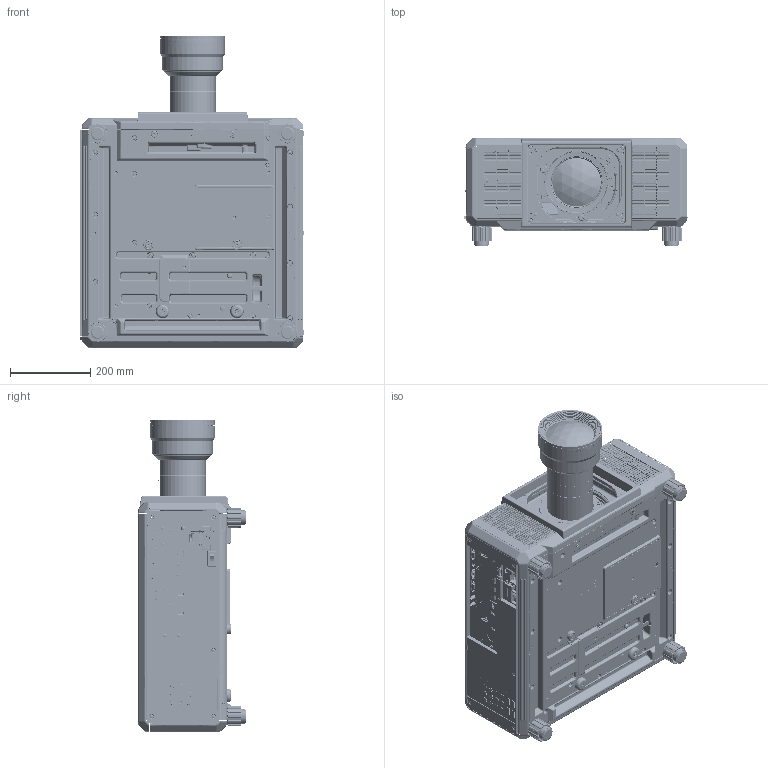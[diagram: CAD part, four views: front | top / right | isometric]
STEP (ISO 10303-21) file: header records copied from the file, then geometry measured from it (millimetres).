
FILE_DESCRIPTION(/* description */ (''),/* implementation_level */ '2;1');
FILE_NAME(/* name */ '01103055_ZA00_RQ25K_D75LE50_FACE.stp',/* time_stamp */ '2022-12-02T14:24:10+09:00',/* author */ (''),/* organization */ (''),/* preprocessor_version */ 'ST-DEVELOPER v16',/* originating_system */ 'SIEMENS PLM Software NX 10.0',/* authorisation */ '');
FILE_SCHEMA (('AUTOMOTIVE_DESIGN { 1 0 10303 214 3 1 1 1 }'));
Products named in the file (1): 01103055_ZA00
Bounding box: 556.3 x 269 x 773.65 mm (x, y, z)
Surface area: 1947302.8 mm2 (no closed solid volume)
Topology: 0 solids, 2258 shells, 10205 faces, 47204 edges, 38689 vertices
Faces by surface type: plane 5076, cylinder 3980, torus 440, bspline 403, cone 185, sphere 119, extrusion 2
Full cylindrical faces by diameter (mm): 1.02 x2, 3 x1, 3.6 x2, 5 x2, 5.5 x5, 6 x2, 7 x2, 8 x2, 9.5 x2, 14.9 x2, 23.647 x1, 37.2 x4, 40 x4, 114.5 x3, 117 x1, 120.5 x1, 126.8 x1, 142 x1, 150 x1, 154 x1, 159 x1, 160 x2
Entity records: 585739 total; most frequent: CARTESIAN_POINT 147810, DIRECTION 76365, ORIENTED_EDGE 56864, EDGE_CURVE 46679, VERTEX_POINT 38536, VECTOR 26075, LINE 26073, AXIS2_PLACEMENT_3D 25145
